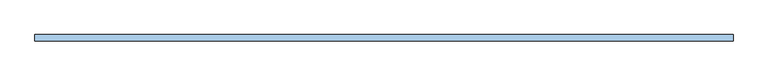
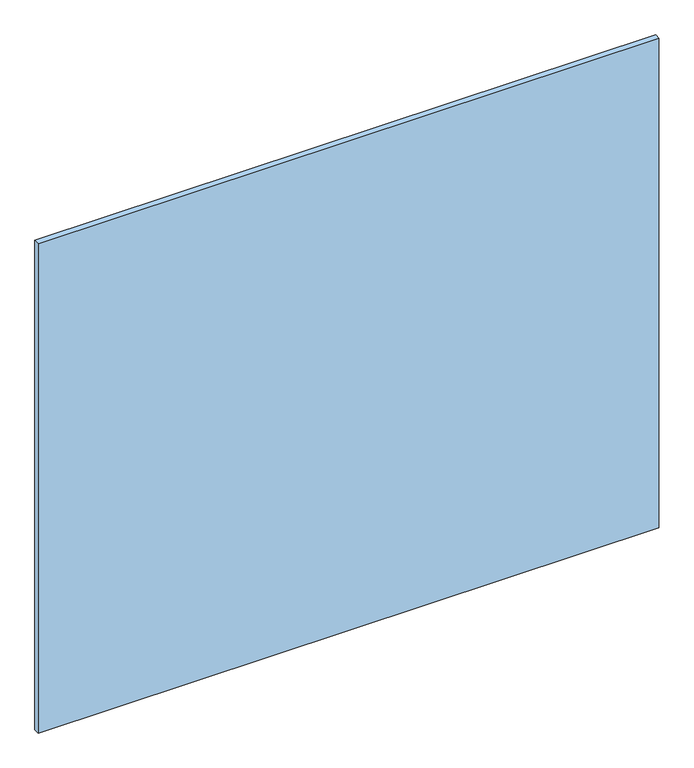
"""IFC4 building model written with IfcOpenShell, lengths in millimetres: window geometry, espejo biselado sin marco : ESP6-espejo biselado 120 x 100."""

from ifc_helpers import new_model, si_unit, origin, origin_with_axes, place, context, project, spatial, polyline, outline, extrude, source, transform, mapped, element, save


def window_ec9bc15d(model_context):
    return source(origin(), model_context, "Body", "SweptSolid", [
        extrude(outline(polyline([(-600.0, 99.0), (-600.0, 110.0), (600.0, 110.0), (600.0, 99.0), (-600.0, 99.0)])), origin_with_axes(), (0.0, 0.0, 1.0), 1000.0),
    ])


if __name__ == "__main__":
    model = new_model("IFC4")
    model_context = context("Model", 3, world=origin())
    ifc_project = project(units=[si_unit("LENGTHUNIT", "METRE", prefix="MILLI")], contexts=[model_context])
    site = spatial("IfcSite", under=ifc_project)
    building = spatial("IfcBuilding", under=site)
    placement = place(None, origin())
    window_shape = window_ec9bc15d(model_context)
    element("IfcWindow", 1, ObjectType="espejo biselado sin marco : ESP6-espejo biselado 120 x 100", at=placement, inside=building, context=model_context, shape_type="MappedRepresentation", body=[
        mapped(window_shape, transform((0.0, 0.0, 0.0), x_axis=(1.0, 0.0, 0.0), y_axis=(0.0, 1.0, 0.0), z_axis=(0.0, 0.0, 1.0))),
    ])
    save(model, "model.ifc")
